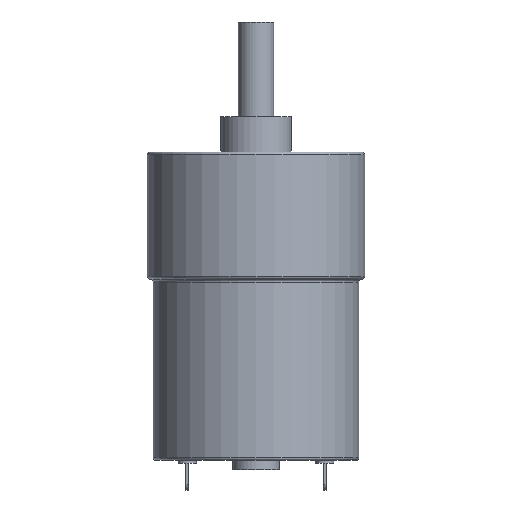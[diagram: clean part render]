
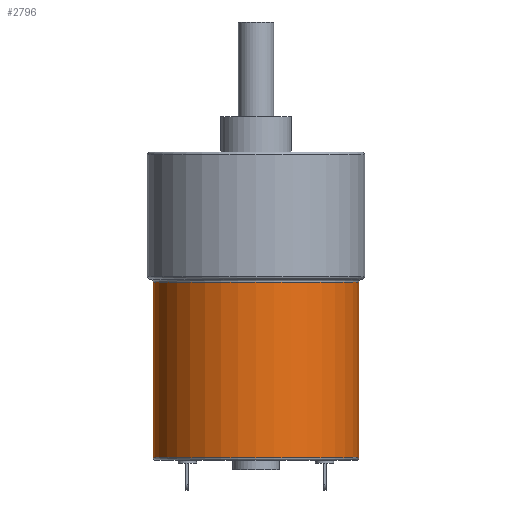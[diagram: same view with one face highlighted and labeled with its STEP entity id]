
A CAD part, front view. The second image highlights one B-rep face of the part: STEP entity #2796.
In plain terms, the highlighted cylindrical face has radius 17.4 mm (diameter 34.8 mm), a partial arc.
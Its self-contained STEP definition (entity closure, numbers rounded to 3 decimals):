
#76 = CARTESIAN_POINT ( 'NONE',  ( -17.4, 0., -30.7 ) ) ;
#127 = VERTEX_POINT ( 'NONE', #237 ) ;
#156 = CARTESIAN_POINT ( 'NONE',  ( 0., 0., -30.2 ) ) ;
#220 = EDGE_CURVE ( 'NONE', #289, #269, #1356, .T. ) ;
#234 = EDGE_CURVE ( 'NONE', #2154, #289, #842, .T. ) ;
#237 = CARTESIAN_POINT ( 'NONE',  ( -17.4, 0., -0.5 ) ) ;
#269 = VERTEX_POINT ( 'NONE', #2984 ) ;
#289 = VERTEX_POINT ( 'NONE', #1781 ) ;
#304 = AXIS2_PLACEMENT_3D ( 'NONE', #156, #1765, #2465 ) ;
#367 = CARTESIAN_POINT ( 'NONE',  ( 17.4, 0., -30.7 ) ) ;
#370 = EDGE_LOOP ( 'NONE', ( #2655, #1318, #2680, #2605 ) ) ;
#481 = DIRECTION ( 'NONE',  ( 1., 0., 0. ) ) ;
#708 = CARTESIAN_POINT ( 'NONE',  ( 0., 0., -0.5 ) ) ;
#801 = DIRECTION ( 'NONE',  ( 0., 0., 1. ) ) ;
#842 = CIRCLE ( 'NONE', #304, 17.4 ) ;
#860 = FACE_OUTER_BOUND ( 'NONE', #370, .T. ) ;
#1103 = DIRECTION ( 'NONE',  ( 1., 0., 0. ) ) ;
#1318 = ORIENTED_EDGE ( 'NONE', *, *, #234, .T. ) ;
#1356 = LINE ( 'NONE', #367, #2682 ) ;
#1369 = VECTOR ( 'NONE', #2689, 1000. ) ;
#1415 = CIRCLE ( 'NONE', #1797, 17.4 ) ;
#1655 = DIRECTION ( 'NONE',  ( 0., 0., -1. ) ) ;
#1765 = DIRECTION ( 'NONE',  ( 0., 0., 1. ) ) ;
#1781 = CARTESIAN_POINT ( 'NONE',  ( 17.4, 0., -30.2 ) ) ;
#1797 = AXIS2_PLACEMENT_3D ( 'NONE', #708, #1655, #481 ) ;
#2105 = AXIS2_PLACEMENT_3D ( 'NONE', #2989, #801, #1103 ) ;
#2134 = CARTESIAN_POINT ( 'NONE',  ( -17.4, 0., -30.2 ) ) ;
#2139 = EDGE_CURVE ( 'NONE', #269, #127, #1415, .T. ) ;
#2154 = VERTEX_POINT ( 'NONE', #2134 ) ;
#2299 = EDGE_CURVE ( 'NONE', #2154, #127, #2918, .T. ) ;
#2465 = DIRECTION ( 'NONE',  ( -1., 0., 0. ) ) ;
#2605 = ORIENTED_EDGE ( 'NONE', *, *, #2139, .T. ) ;
#2655 = ORIENTED_EDGE ( 'NONE', *, *, #2299, .F. ) ;
#2680 = ORIENTED_EDGE ( 'NONE', *, *, #220, .T. ) ;
#2682 = VECTOR ( 'NONE', #3013, 1000. ) ;
#2689 = DIRECTION ( 'NONE',  ( 0., 0., 1. ) ) ;
#2731 = CYLINDRICAL_SURFACE ( 'NONE', #2105, 17.4 ) ;
#2796 = ADVANCED_FACE ( 'NONE', ( #860 ), #2731, .T. ) ;
#2918 = LINE ( 'NONE', #76, #1369 ) ;
#2984 = CARTESIAN_POINT ( 'NONE',  ( 17.4, 0., -0.5 ) ) ;
#2989 = CARTESIAN_POINT ( 'NONE',  ( 0., 0., -30.7 ) ) ;
#3013 = DIRECTION ( 'NONE',  ( 0., 0., 1. ) ) ;
